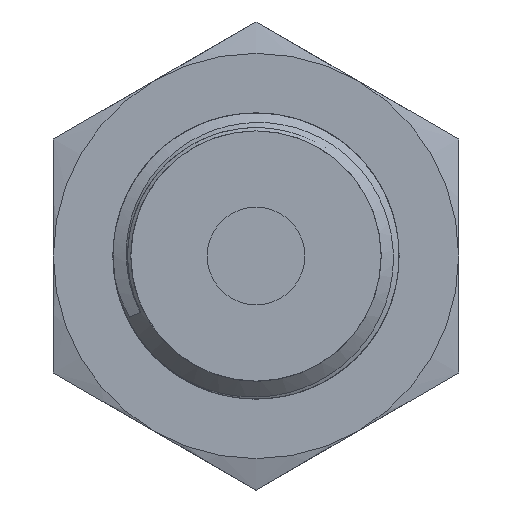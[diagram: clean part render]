
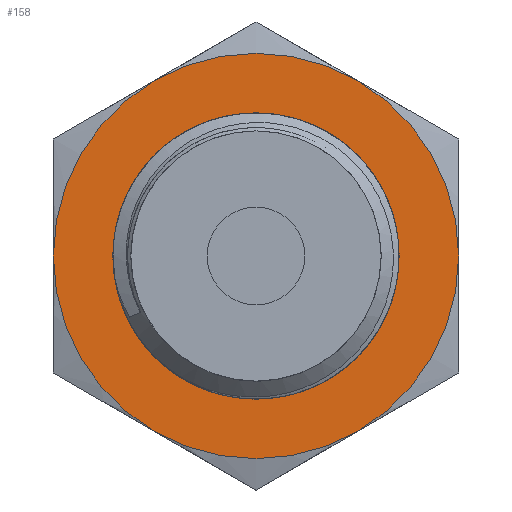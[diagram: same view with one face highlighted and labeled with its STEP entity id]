
A CAD part, left-side view. The second image highlights one B-rep face of the part: STEP entity #158.
In plain terms, the highlighted planar face has unit normal (-1, 0, 0).
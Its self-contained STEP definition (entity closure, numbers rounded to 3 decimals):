
#36=FACE_BOUND('',#256,.T.);
#37=FACE_BOUND('',#257,.T.);
#59=PLANE('',#797);
#158=ADVANCED_FACE('',(#36,#37),#59,.T.);
#256=EDGE_LOOP('',(#398,#399,#400,#401,#402,#403));
#257=EDGE_LOOP('',(#404,#405,#406,#407));
#300=CIRCLE('',#776,8.5);
#301=CIRCLE('',#778,8.5);
#302=CIRCLE('',#780,8.5);
#303=CIRCLE('',#782,8.5);
#304=CIRCLE('',#784,8.5);
#305=CIRCLE('',#793,8.5);
#306=CIRCLE('',#795,5.385);
#307=CIRCLE('',#796,6.);
#398=ORIENTED_EDGE('',*,*,#648,.F.);
#399=ORIENTED_EDGE('',*,*,#633,.F.);
#400=ORIENTED_EDGE('',*,*,#629,.F.);
#401=ORIENTED_EDGE('',*,*,#626,.F.);
#402=ORIENTED_EDGE('',*,*,#623,.F.);
#403=ORIENTED_EDGE('',*,*,#621,.F.);
#404=ORIENTED_EDGE('',*,*,#649,.F.);
#405=ORIENTED_EDGE('',*,*,#650,.T.);
#406=ORIENTED_EDGE('',*,*,#651,.F.);
#407=ORIENTED_EDGE('',*,*,#652,.F.);
#547=VERTEX_POINT('',#4525);
#548=VERTEX_POINT('',#4530);
#550=VERTEX_POINT('',#4539);
#552=VERTEX_POINT('',#4551);
#554=VERTEX_POINT('',#4563);
#556=VERTEX_POINT('',#4574);
#564=VERTEX_POINT('',#4645);
#565=VERTEX_POINT('',#4646);
#566=VERTEX_POINT('',#4648);
#567=VERTEX_POINT('',#4671);
#621=EDGE_CURVE('',#548,#547,#300,.T.);
#623=EDGE_CURVE('',#547,#550,#301,.T.);
#626=EDGE_CURVE('',#550,#552,#302,.T.);
#629=EDGE_CURVE('',#552,#554,#303,.T.);
#633=EDGE_CURVE('',#554,#556,#304,.T.);
#648=EDGE_CURVE('',#556,#548,#305,.T.);
#649=EDGE_CURVE('',#564,#565,#736,.T.);
#650=EDGE_CURVE('',#564,#566,#306,.T.);
#651=EDGE_CURVE('',#567,#566,#737,.T.);
#652=EDGE_CURVE('',#565,#567,#307,.T.);
#736=B_SPLINE_CURVE_WITH_KNOTS('',3,(#4623,#4624,#4625,#4626,#4627,#4628,
#4629,#4630,#4631,#4632,#4633,#4634,#4635,#4636,#4637,#4638,#4639,#4640,
#4641,#4642,#4643,#4644),.UNSPECIFIED.,.F.,.F.,(4,3,3,3,3,3,3,4),(0.,0.104,
0.243,0.388,0.536,0.687,0.84,
1.),.UNSPECIFIED.);
#737=B_SPLINE_CURVE_WITH_KNOTS('',3,(#4649,#4650,#4651,#4652,#4653,#4654,
#4655,#4656,#4657,#4658,#4659,#4660,#4661,#4662,#4663,#4664,#4665,#4666,
#4667,#4668,#4669,#4670),.UNSPECIFIED.,.F.,.F.,(4,3,3,3,3,3,3,4),(0.,0.131,
0.27,0.426,0.579,0.731,
0.88,1.),.UNSPECIFIED.);
#776=AXIS2_PLACEMENT_3D('',#4531,#855,#856);
#778=AXIS2_PLACEMENT_3D('',#4538,#859,#860);
#780=AXIS2_PLACEMENT_3D('',#4550,#863,#864);
#782=AXIS2_PLACEMENT_3D('',#4562,#867,#868);
#784=AXIS2_PLACEMENT_3D('',#4579,#871,#872);
#793=AXIS2_PLACEMENT_3D('',#4621,#899,#900);
#795=AXIS2_PLACEMENT_3D('',#4647,#903,#904);
#796=AXIS2_PLACEMENT_3D('',#4672,#905,#906);
#797=AXIS2_PLACEMENT_3D('',#4673,#907,#908);
#855=DIRECTION('',(1.,0.,0.));
#856=DIRECTION('',(0.,0.,1.));
#859=DIRECTION('',(1.,0.,0.));
#860=DIRECTION('',(0.,0.,1.));
#863=DIRECTION('',(1.,0.,0.));
#864=DIRECTION('',(0.,0.,1.));
#867=DIRECTION('',(1.,0.,0.));
#868=DIRECTION('',(0.,0.,1.));
#871=DIRECTION('',(1.,0.,0.));
#872=DIRECTION('',(0.,0.,1.));
#899=DIRECTION('',(1.,0.,0.));
#900=DIRECTION('',(0.,0.,1.));
#903=DIRECTION('',(1.,0.,0.));
#904=DIRECTION('',(0.,0.,1.));
#905=DIRECTION('',(-1.,0.,0.));
#906=DIRECTION('',(0.,0.,1.));
#907=DIRECTION('',(-1.,0.,0.));
#908=DIRECTION('',(0.,0.,-1.));
#4525=CARTESIAN_POINT('',(-27.,-4.25,-7.361));
#4530=CARTESIAN_POINT('',(-27.,-8.5,0.));
#4531=CARTESIAN_POINT('',(-27.,0.,0.));
#4538=CARTESIAN_POINT('',(-27.,0.,0.));
#4539=CARTESIAN_POINT('',(-27.,4.25,-7.361));
#4550=CARTESIAN_POINT('',(-27.,0.,0.));
#4551=CARTESIAN_POINT('',(-27.,8.5,0.));
#4562=CARTESIAN_POINT('',(-27.,0.,0.));
#4563=CARTESIAN_POINT('',(-27.,4.25,7.361));
#4574=CARTESIAN_POINT('',(-27.,-4.25,7.361));
#4579=CARTESIAN_POINT('',(-27.,0.,0.));
#4621=CARTESIAN_POINT('',(-27.,0.,0.));
#4623=CARTESIAN_POINT('',(-27.,-4.726,-2.581));
#4624=CARTESIAN_POINT('',(-27.,-4.957,-2.206));
#4625=CARTESIAN_POINT('',(-27.,-5.142,-1.799));
#4626=CARTESIAN_POINT('',(-27.,-5.275,-1.379));
#4627=CARTESIAN_POINT('',(-27.,-5.452,-0.82));
#4628=CARTESIAN_POINT('',(-27.,-5.539,-0.224));
#4629=CARTESIAN_POINT('',(-27.,-5.529,0.362));
#4630=CARTESIAN_POINT('',(-27.,-5.519,0.976));
#4631=CARTESIAN_POINT('',(-27.,-5.405,1.596));
#4632=CARTESIAN_POINT('',(-27.,-5.196,2.174));
#4633=CARTESIAN_POINT('',(-27.,-4.983,2.761));
#4634=CARTESIAN_POINT('',(-27.,-4.667,3.32));
#4635=CARTESIAN_POINT('',(-27.,-4.274,3.807));
#4636=CARTESIAN_POINT('',(-27.,-3.875,4.301));
#4637=CARTESIAN_POINT('',(-27.,-3.385,4.733));
#4638=CARTESIAN_POINT('',(-27.,-2.846,5.07));
#4639=CARTESIAN_POINT('',(-27.,-2.3,5.412));
#4640=CARTESIAN_POINT('',(-27.,-1.688,5.665));
#4641=CARTESIAN_POINT('',(-27.,-1.06,5.81));
#4642=CARTESIAN_POINT('',(-27.,-0.402,5.962));
#4643=CARTESIAN_POINT('',(-27.,0.291,6.));
#4644=CARTESIAN_POINT('',(-27.,0.961,5.923));
#4645=CARTESIAN_POINT('',(-27.,-4.726,-2.581));
#4646=CARTESIAN_POINT('',(-27.,0.961,5.923));
#4647=CARTESIAN_POINT('',(-27.,0.,0.));
#4648=CARTESIAN_POINT('',(-27.,0.901,-5.309));
#4649=CARTESIAN_POINT('',(-27.,4.062,4.416));
#4650=CARTESIAN_POINT('',(-27.,4.453,4.022));
#4651=CARTESIAN_POINT('',(-27.,4.791,3.568));
#4652=CARTESIAN_POINT('',(-27.,5.058,3.081));
#4653=CARTESIAN_POINT('',(-27.,5.339,2.567));
#4654=CARTESIAN_POINT('',(-27.,5.546,2.005));
#4655=CARTESIAN_POINT('',(-27.,5.662,1.431));
#4656=CARTESIAN_POINT('',(-27.,5.792,0.787));
#4657=CARTESIAN_POINT('',(-27.,5.814,0.112));
#4658=CARTESIAN_POINT('',(-27.,5.721,-0.538));
#4659=CARTESIAN_POINT('',(-27.,5.629,-1.179));
#4660=CARTESIAN_POINT('',(-27.,5.425,-1.814));
#4661=CARTESIAN_POINT('',(-27.,5.123,-2.387));
#4662=CARTESIAN_POINT('',(-27.,4.826,-2.951));
#4663=CARTESIAN_POINT('',(-27.,4.426,-3.471));
#4664=CARTESIAN_POINT('',(-27.,3.957,-3.903));
#4665=CARTESIAN_POINT('',(-27.,3.494,-4.327));
#4666=CARTESIAN_POINT('',(-27.,2.951,-4.677));
#4667=CARTESIAN_POINT('',(-27.,2.372,-4.921));
#4668=CARTESIAN_POINT('',(-27.,1.905,-5.118));
#4669=CARTESIAN_POINT('',(-27.,1.404,-5.25));
#4670=CARTESIAN_POINT('',(-27.,0.901,-5.309));
#4671=CARTESIAN_POINT('',(-27.,4.062,4.416));
#4672=CARTESIAN_POINT('',(-27.,0.,0.));
#4673=CARTESIAN_POINT('',(-27.,-8.5,0.));
